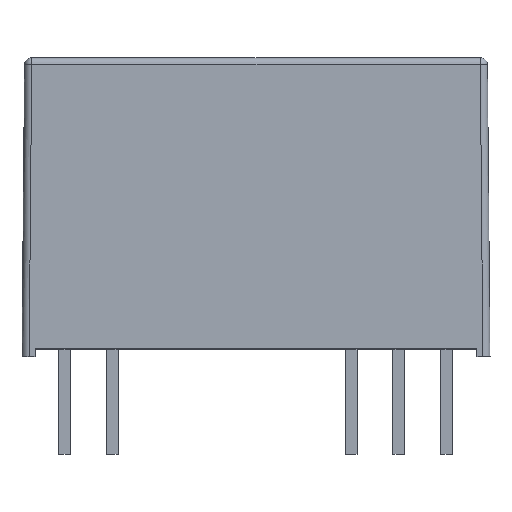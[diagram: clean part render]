
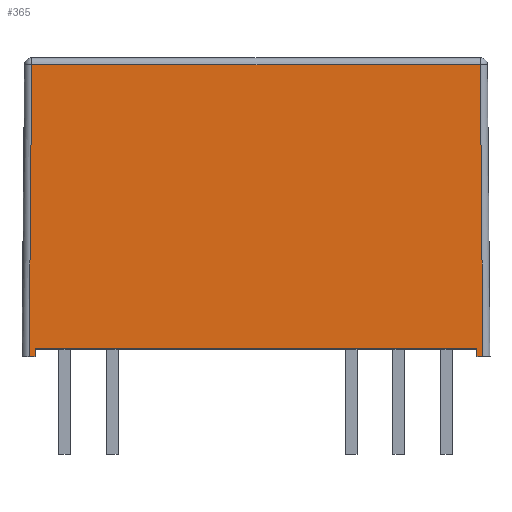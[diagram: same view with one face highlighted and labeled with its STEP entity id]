
A CAD part, top view. The second image highlights one B-rep face of the part: STEP entity #365.
In plain terms, the highlighted planar face has unit normal (0, 0.009, 1).
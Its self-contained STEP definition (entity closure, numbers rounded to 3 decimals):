
#10 = VECTOR ( 'NONE', #190, 1000. ) ;
#14 = EDGE_CURVE ( 'NONE', #943, #166, #634, .T. ) ;
#42 = LINE ( 'NONE', #945, #942 ) ;
#61 = VERTEX_POINT ( 'NONE', #702 ) ;
#84 = CARTESIAN_POINT ( 'NONE',  ( 9.25, 0., 4.95 ) ) ;
#95 = DIRECTION ( 'NONE',  ( 0., -1., 0.009 ) ) ;
#122 = ORIENTED_EDGE ( 'NONE', *, *, #1889, .T. ) ;
#166 = VERTEX_POINT ( 'NONE', #1240 ) ;
#172 = CARTESIAN_POINT ( 'NONE',  ( 9.25, 0.3, 4.947 ) ) ;
#190 = DIRECTION ( 'NONE',  ( 0., 1., -0.009 ) ) ;
#236 = EDGE_CURVE ( 'NONE', #1154, #1345, #1185, .T. ) ;
#266 = CARTESIAN_POINT ( 'NONE',  ( -9.8, 0., 4.95 ) ) ;
#285 = CARTESIAN_POINT ( 'NONE',  ( 9.499, 0.168, 4.949 ) ) ;
#316 = ORIENTED_EDGE ( 'NONE', *, *, #1740, .T. ) ;
#365 = ADVANCED_FACE ( 'NONE', ( #1719 ), #1444, .T. ) ;
#464 = CARTESIAN_POINT ( 'NONE',  ( -9.5, -0.003, 4.95 ) ) ;
#527 = CARTESIAN_POINT ( 'NONE',  ( 9.5, 0., 4.95 ) ) ;
#574 = ORIENTED_EDGE ( 'NONE', *, *, #1291, .T. ) ;
#584 = DIRECTION ( 'NONE',  ( -1., 0., 0. ) ) ;
#606 = LINE ( 'NONE', #2010, #724 ) ;
#634 = LINE ( 'NONE', #84, #676 ) ;
#646 = DIRECTION ( 'NONE',  ( 0., 0.009, 1. ) ) ;
#673 = VECTOR ( 'NONE', #1419, 1000. ) ;
#676 = VECTOR ( 'NONE', #95, 1000. ) ;
#702 = CARTESIAN_POINT ( 'NONE',  ( -9.25, 0., 4.95 ) ) ;
#724 = VECTOR ( 'NONE', #584, 1000. ) ;
#732 = CARTESIAN_POINT ( 'NONE',  ( -9.8, 0., 4.95 ) ) ;
#775 = ORIENTED_EDGE ( 'NONE', *, *, #1962, .T. ) ;
#785 = AXIS2_PLACEMENT_3D ( 'NONE', #1776, #646, #801 ) ;
#801 = DIRECTION ( 'NONE',  ( 0., -1., 0.009 ) ) ;
#819 = ORIENTED_EDGE ( 'NONE', *, *, #14, .T. ) ;
#885 = EDGE_CURVE ( 'NONE', #1162, #943, #42, .T. ) ;
#942 = VECTOR ( 'NONE', #1902, 1000. ) ;
#943 = VERTEX_POINT ( 'NONE', #172 ) ;
#945 = CARTESIAN_POINT ( 'NONE',  ( -9.8, 0.3, 4.947 ) ) ;
#1020 = LINE ( 'NONE', #266, #1079 ) ;
#1032 = CARTESIAN_POINT ( 'NONE',  ( -9.25, 0., 4.95 ) ) ;
#1079 = VECTOR ( 'NONE', #1544, 1000. ) ;
#1098 = EDGE_LOOP ( 'NONE', ( #775, #2024, #574, #1621, #122, #316, #1376, #819 ) ) ;
#1154 = VERTEX_POINT ( 'NONE', #1624 ) ;
#1162 = VERTEX_POINT ( 'NONE', #1946 ) ;
#1185 = LINE ( 'NONE', #464, #1838 ) ;
#1191 = VECTOR ( 'NONE', #1254, 1000. ) ;
#1220 = VERTEX_POINT ( 'NONE', #527 ) ;
#1240 = CARTESIAN_POINT ( 'NONE',  ( 9.25, 0., 4.95 ) ) ;
#1254 = DIRECTION ( 'NONE',  ( 1., 0., 0. ) ) ;
#1291 = EDGE_CURVE ( 'NONE', #1794, #1154, #606, .T. ) ;
#1345 = VERTEX_POINT ( 'NONE', #1828 ) ;
#1376 = ORIENTED_EDGE ( 'NONE', *, *, #885, .T. ) ;
#1404 = LINE ( 'NONE', #285, #673 ) ;
#1419 = DIRECTION ( 'NONE',  ( -0.009, 1., -0.009 ) ) ;
#1444 = PLANE ( 'NONE',  #785 ) ;
#1476 = LINE ( 'NONE', #732, #1191 ) ;
#1532 = EDGE_CURVE ( 'NONE', #1220, #1794, #1404, .T. ) ;
#1544 = DIRECTION ( 'NONE',  ( 1., 0., 0. ) ) ;
#1621 = ORIENTED_EDGE ( 'NONE', *, *, #236, .T. ) ;
#1624 = CARTESIAN_POINT ( 'NONE',  ( -9.394, 12.203, 4.844 ) ) ;
#1669 = CARTESIAN_POINT ( 'NONE',  ( 9.394, 12.203, 4.844 ) ) ;
#1719 = FACE_OUTER_BOUND ( 'NONE', #1098, .T. ) ;
#1740 = EDGE_CURVE ( 'NONE', #61, #1162, #1923, .T. ) ;
#1776 = CARTESIAN_POINT ( 'NONE',  ( -9.8, 0., 4.95 ) ) ;
#1794 = VERTEX_POINT ( 'NONE', #1669 ) ;
#1828 = CARTESIAN_POINT ( 'NONE',  ( -9.5, 0., 4.95 ) ) ;
#1838 = VECTOR ( 'NONE', #1888, 1000. ) ;
#1888 = DIRECTION ( 'NONE',  ( -0.009, -1., 0.009 ) ) ;
#1889 = EDGE_CURVE ( 'NONE', #1345, #61, #1020, .T. ) ;
#1902 = DIRECTION ( 'NONE',  ( 1., 0., 0. ) ) ;
#1923 = LINE ( 'NONE', #1032, #10 ) ;
#1946 = CARTESIAN_POINT ( 'NONE',  ( -9.25, 0.3, 4.947 ) ) ;
#1962 = EDGE_CURVE ( 'NONE', #166, #1220, #1476, .T. ) ;
#2010 = CARTESIAN_POINT ( 'NONE',  ( -9.691, 12.203, 4.844 ) ) ;
#2024 = ORIENTED_EDGE ( 'NONE', *, *, #1532, .T. ) ;
